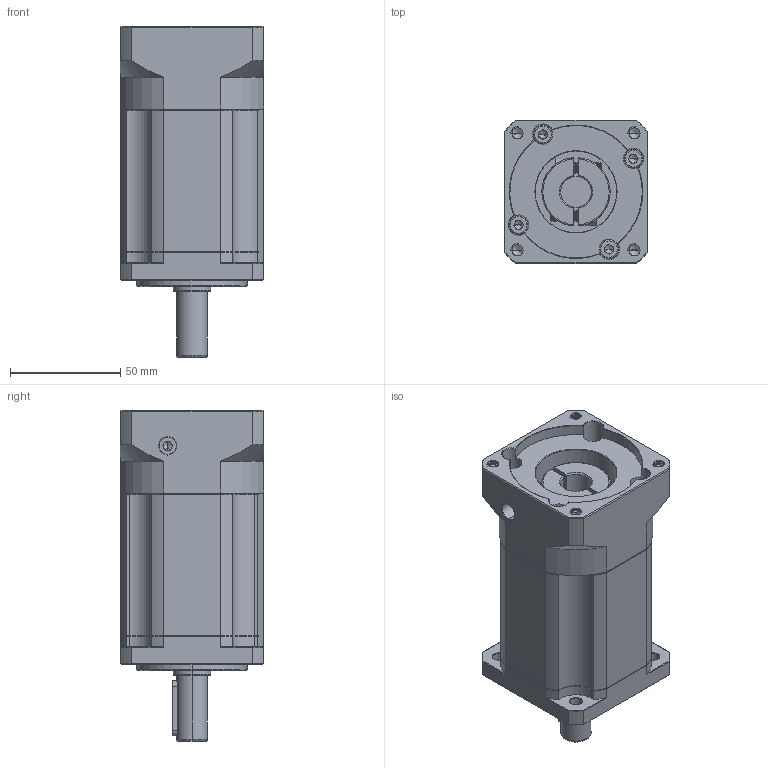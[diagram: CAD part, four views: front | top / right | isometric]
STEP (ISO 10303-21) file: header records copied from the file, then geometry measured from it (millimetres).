
FILE_DESCRIPTION (( 'STEP AP214' ), '1' );
FILE_NAME ('ZB60-D14-L3-14-60-75-M6.STEP', '2022-04-17T07:39:53', ( '' ), ( 'Microsoft' ), 'SwSTEP 2.0', 'SolidWorks 2016', '' );
FILE_SCHEMA (( 'AUTOMOTIVE_DESIGN' ));
Length unit declared in the file: millimetre
Products named in the file (1): ZB60-D14-L3-14-60-75-M6
Bounding box: 65 x 65 x 150 mm (x, y, z)
Volume: 384994.5 mm3; surface area: 62885 mm2
Topology: 6 solids, 6 shells, 1890 faces, 5024 edges, 3213 vertices
Faces by surface type: plane 879, cylinder 392, bspline 299, cone 284, torus 36
Entity records: 101635 total; most frequent: CARTESIAN_POINT 36242, ORIENTED_EDGE 9988, DIRECTION 8205, EDGE_CURVE 4994, VERTEX_POINT 3213, LINE 3045, VECTOR 3045, AXIS2_PLACEMENT_3D 2580
